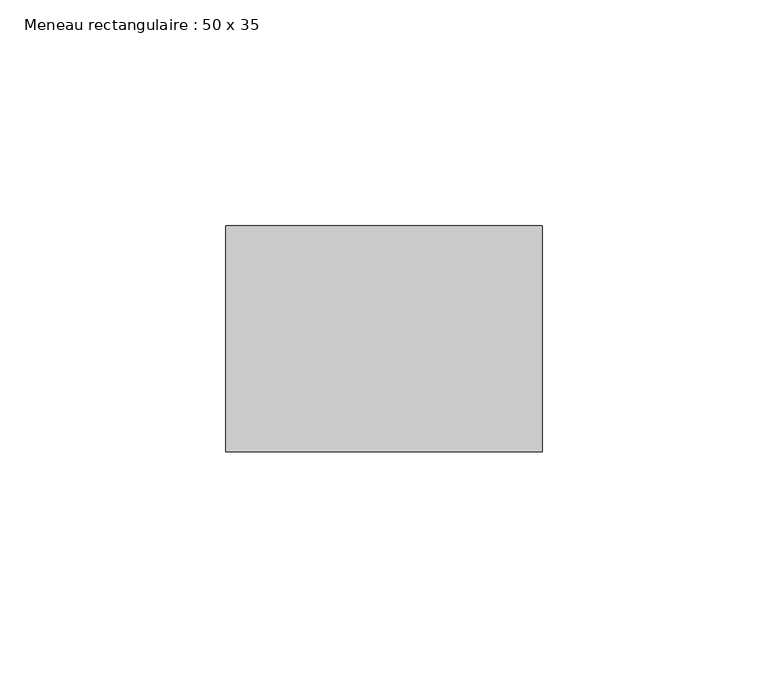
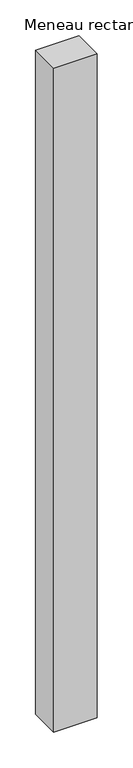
"""IFC4 building model written with IfcOpenShell, lengths in millimetres: member geometry, Meneau rectangulaire : 50 x 35."""

from ifc_helpers import new_model, si_unit, frame, origin, place, context, project, spatial, polyline, outline, extrude, source, transform, mapped, element, save


def meneau_rectangulaire_50_x_35_7f178102(model_context):
    return source(origin(), model_context, "Body", "SweptSolid", [
        extrude(outline(polyline([(0.0, 0.0), (0.0, -50.0), (-70.0, -50.0), (-70.0, 0.0), (0.0, 0.0)])), frame((0.0, 0.0, -1128.0), z_axis=(0.0, 0.0, 1.0), x_axis=(1.0, 0.0, 0.0)), (0.0, 0.0, 1.0), 1128.0),
    ])


if __name__ == "__main__":
    model = new_model("IFC4")
    model_context = context("Model", 3, world=origin())
    ifc_project = project(units=[si_unit("LENGTHUNIT", "METRE", prefix="MILLI")], contexts=[model_context])
    site = spatial("IfcSite", under=ifc_project)
    building = spatial("IfcBuilding", under=site)
    placement = place(None, origin())
    meneau_rectangulaire_50_x_35_shape = meneau_rectangulaire_50_x_35_7f178102(model_context)
    element("IfcMember", 1, ObjectType="Meneau rectangulaire : 50 x 35", at=placement, inside=building, context=model_context, shape_type="MappedRepresentation", body=[
        mapped(meneau_rectangulaire_50_x_35_shape, transform((0.0, 0.0, 0.0), x_axis=(1.0, 0.0, 0.0), y_axis=(0.0, 1.0, 0.0), z_axis=(0.0, 0.0, 1.0))),
    ])
    save(model, "model.ifc")
